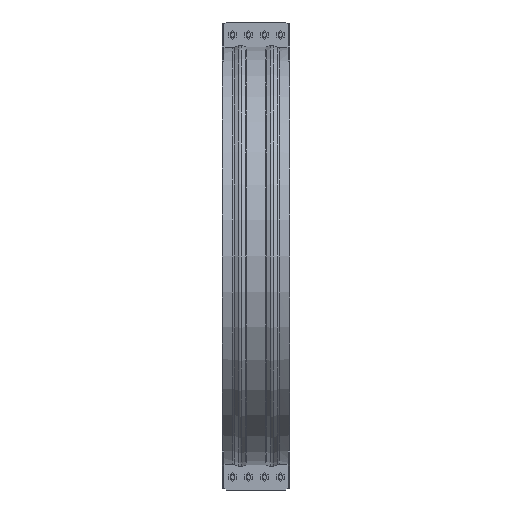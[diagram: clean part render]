
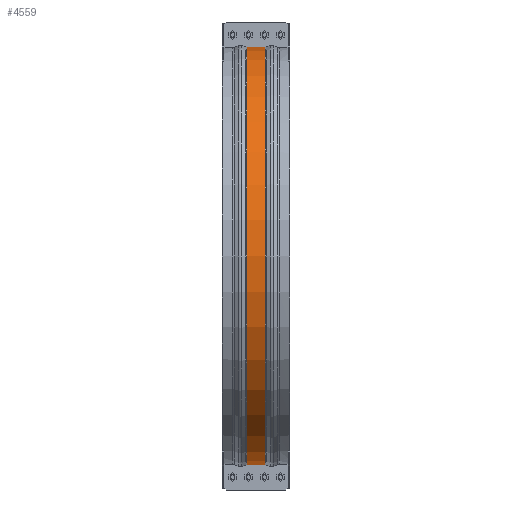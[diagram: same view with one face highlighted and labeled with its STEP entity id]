
A CAD part, front view. The second image highlights one B-rep face of the part: STEP entity #4559.
In plain terms, the highlighted cylindrical face has radius 1159.18 mm (diameter 2318.35 mm), a partial arc.
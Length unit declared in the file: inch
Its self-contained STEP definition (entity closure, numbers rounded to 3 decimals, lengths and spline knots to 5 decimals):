
#414=FACE_OUTER_BOUND('',#671,.T.);
#671=EDGE_LOOP('',(#3465,#3466,#3467,#3468));
#1036=LINE('',#7017,#1485);
#1044=LINE('',#7149,#1493);
#1485=VECTOR('',#5630,0.3937);
#1493=VECTOR('',#5690,0.3937);
#1771=CIRCLE('',#4875,45.63689);
#1773=CIRCLE('',#4879,45.63689);
#2060=VERTEX_POINT('',#7009);
#2061=VERTEX_POINT('',#7016);
#2076=VERTEX_POINT('',#7134);
#2078=VERTEX_POINT('',#7147);
#2565=EDGE_CURVE('',#2061,#2060,#1036,.T.);
#2590=EDGE_CURVE('',#2076,#2061,#1771,.T.);
#2594=EDGE_CURVE('',#2078,#2060,#1773,.T.);
#2595=EDGE_CURVE('',#2078,#2076,#1044,.T.);
#3465=ORIENTED_EDGE('',*,*,#2565,.T.);
#3466=ORIENTED_EDGE('',*,*,#2594,.F.);
#3467=ORIENTED_EDGE('',*,*,#2595,.T.);
#3468=ORIENTED_EDGE('',*,*,#2590,.T.);
#4182=CYLINDRICAL_SURFACE('',#4878,45.63689);
#4559=ADVANCED_FACE('',(#414),#4182,.T.);
#4875=AXIS2_PLACEMENT_3D('',#7135,#5679,#5680);
#4878=AXIS2_PLACEMENT_3D('',#7146,#5686,#5687);
#4879=AXIS2_PLACEMENT_3D('',#7148,#5688,#5689);
#5630=DIRECTION('',(1.,0.,0.));
#5679=DIRECTION('center_axis',(1.,0.,0.));
#5680=DIRECTION('ref_axis',(0.,0.,-1.));
#5686=DIRECTION('center_axis',(1.,0.,0.));
#5687=DIRECTION('ref_axis',(0.,-1.,0.));
#5688=DIRECTION('center_axis',(1.,0.,0.));
#5689=DIRECTION('ref_axis',(0.,0.,-1.));
#5690=DIRECTION('',(-1.,0.,0.));
#7009=CARTESIAN_POINT('',(2.00101,-0.375,-45.63535));
#7016=CARTESIAN_POINT('',(-2.00101,-0.375,-45.63535));
#7017=CARTESIAN_POINT('',(0.,-0.375,-45.63535));
#7134=CARTESIAN_POINT('',(-2.00101,-0.375,45.63535));
#7135=CARTESIAN_POINT('Origin',(-2.00101,0.,0.));
#7146=CARTESIAN_POINT('Origin',(0.,0.,0.));
#7147=CARTESIAN_POINT('',(2.00101,-0.375,45.63535));
#7148=CARTESIAN_POINT('Origin',(2.00101,0.,0.));
#7149=CARTESIAN_POINT('',(0.,-0.375,45.63535));
